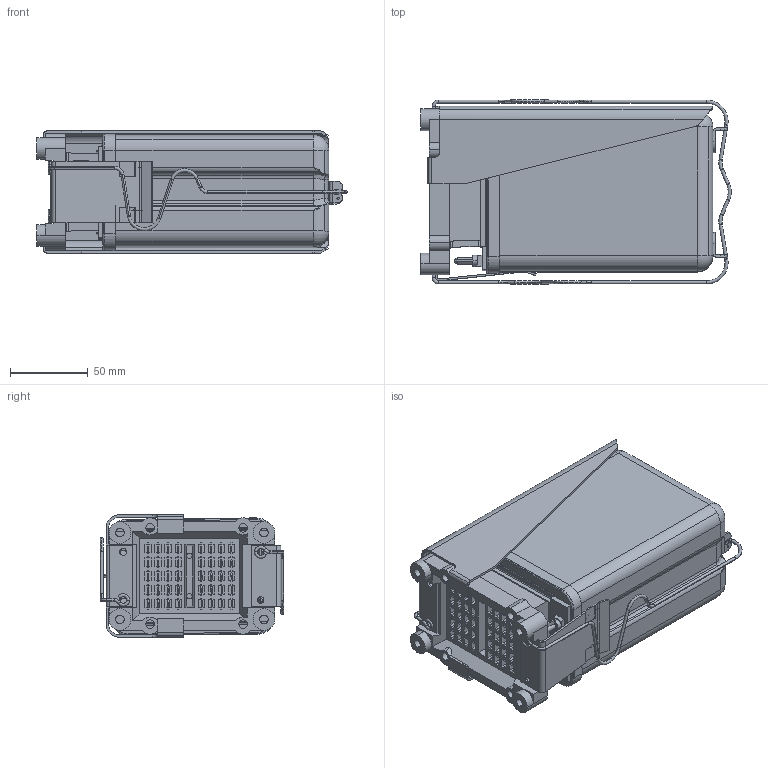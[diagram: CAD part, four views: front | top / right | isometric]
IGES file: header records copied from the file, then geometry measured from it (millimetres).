
Global section: file name: No Iges File Name specified; native system: AutoDesk Inventor R9; preprocessor: AutoDesk Inventor Iges Exporter R9; author: No Author specified; organization: No Organization specified; date: 20050809.113729; units: millimetre
Bounding box: 200.25 x 118.7 x 79 mm (x, y, z)
Volume: 372023.5 mm3; surface area: 302685.8 mm2
Topology: 67 solids, 67 shells, 4131 faces, 11030 edges, 7145 vertices
Faces by surface type: plane 2711, revolution 616, cone 328, cylinder 240, bspline 182, torus 48, sphere 6
